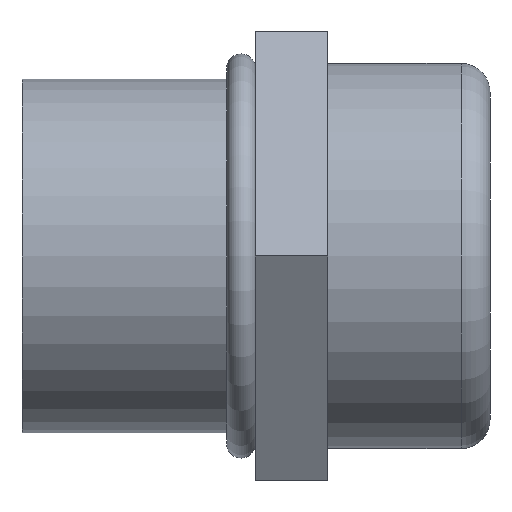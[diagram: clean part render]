
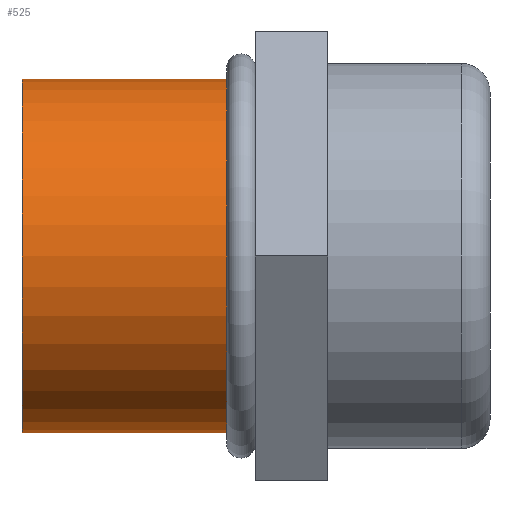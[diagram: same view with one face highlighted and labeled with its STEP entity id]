
A CAD part, left-side view. The second image highlights one B-rep face of the part: STEP entity #525.
In plain terms, the highlighted cylindrical face has radius 12.446 mm (diameter 24.892 mm), a partial arc.
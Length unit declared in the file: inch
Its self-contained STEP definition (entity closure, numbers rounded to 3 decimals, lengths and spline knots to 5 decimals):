
#3 = CIRCLE ( 'NONE', #626, 0.49 ) ;
#54 = CIRCLE ( 'NONE', #621, 0.49 ) ;
#93 = LINE ( 'NONE', #416, #97 ) ;
#97 = VECTOR ( 'NONE', #409, 39.37008 ) ;
#98 = VECTOR ( 'NONE', #373, 39.37008 ) ;
#107 = LINE ( 'NONE', #378, #98 ) ;
#136 = CYLINDRICAL_SURFACE ( 'NONE', #595, 0.49 ) ;
#138 = FACE_OUTER_BOUND ( 'NONE', #251, .T. ) ;
#149 = ORIENTED_EDGE ( 'NONE', *, *, #589, .T. ) ;
#155 = ORIENTED_EDGE ( 'NONE', *, *, #563, .T. ) ;
#165 = ORIENTED_EDGE ( 'NONE', *, *, #561, .F. ) ;
#168 = ORIENTED_EDGE ( 'NONE', *, *, #584, .F. ) ;
#251 = EDGE_LOOP ( 'NONE', ( #165, #149, #155, #168 ) ) ;
#294 = DIRECTION ( 'NONE',  ( 0., 0., -1. ) ) ;
#295 = DIRECTION ( 'NONE',  ( 0., -1., 0. ) ) ;
#301 = CARTESIAN_POINT ( 'NONE',  ( 0., 1.297, 0. ) ) ;
#307 = DIRECTION ( 'NONE',  ( 0., 0., -1. ) ) ;
#308 = DIRECTION ( 'NONE',  ( 0., -1., 0. ) ) ;
#349 = VERTEX_POINT ( 'NONE', #440 ) ;
#373 = DIRECTION ( 'NONE',  ( 0., -1., 0. ) ) ;
#378 = CARTESIAN_POINT ( 'NONE',  ( 0., 0., -0.49 ) ) ;
#409 = DIRECTION ( 'NONE',  ( 0., -1., 0. ) ) ;
#416 = CARTESIAN_POINT ( 'NONE',  ( 0., 0., 0.49 ) ) ;
#430 = CARTESIAN_POINT ( 'NONE',  ( 0., 0.71646, -0.49 ) ) ;
#440 = CARTESIAN_POINT ( 'NONE',  ( 0., 1.297, -0.49 ) ) ;
#447 = VERTEX_POINT ( 'NONE', #452 ) ;
#452 = CARTESIAN_POINT ( 'NONE',  ( 0., 0.71646, 0.49 ) ) ;
#465 = VERTEX_POINT ( 'NONE', #430 ) ;
#471 = VERTEX_POINT ( 'NONE', #481 ) ;
#481 = CARTESIAN_POINT ( 'NONE',  ( 0., 1.297, 0.49 ) ) ;
#491 = DIRECTION ( 'NONE',  ( 0., 0., -1. ) ) ;
#492 = DIRECTION ( 'NONE',  ( 0., -1., 0. ) ) ;
#494 = CARTESIAN_POINT ( 'NONE',  ( 0., 0.71646, 0. ) ) ;
#515 = CARTESIAN_POINT ( 'NONE',  ( 0., 0., 0. ) ) ;
#525 = ADVANCED_FACE ( 'NONE', ( #138 ), #136, .T. ) ;
#561 = EDGE_CURVE ( 'NONE', #471, #447, #93, .T. ) ;
#563 = EDGE_CURVE ( 'NONE', #349, #465, #107, .T. ) ;
#584 = EDGE_CURVE ( 'NONE', #447, #465, #54, .T. ) ;
#589 = EDGE_CURVE ( 'NONE', #471, #349, #3, .T. ) ;
#595 = AXIS2_PLACEMENT_3D ( 'NONE', #515, #492, #491 ) ;
#621 = AXIS2_PLACEMENT_3D ( 'NONE', #494, #308, #307 ) ;
#626 = AXIS2_PLACEMENT_3D ( 'NONE', #301, #295, #294 ) ;
